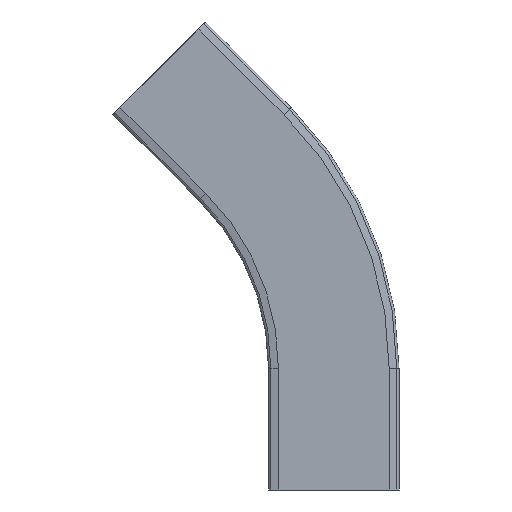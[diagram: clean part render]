
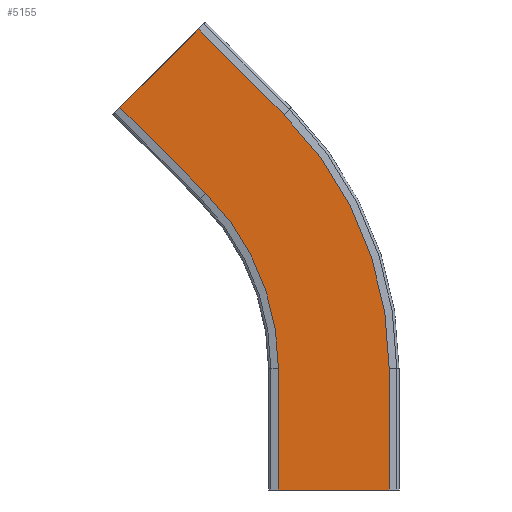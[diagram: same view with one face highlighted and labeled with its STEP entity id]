
A CAD part, front view. The second image highlights one B-rep face of the part: STEP entity #5155.
In plain terms, the highlighted planar face has unit normal (0, -1, 0).
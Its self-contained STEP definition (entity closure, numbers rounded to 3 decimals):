
#4745=CARTESIAN_POINT('',(36.5,-11.,0.0));
#4746=VERTEX_POINT('',#4745);
#4753=CARTESIAN_POINT('',(-36.5,-11.,0.0));
#4754=VERTEX_POINT('',#4753);
#4755=CARTESIAN_POINT('',(-36.5,-11.,0.0));
#4756=DIRECTION('',(1.0,0.0,0.0));
#4757=VECTOR('',#4756,73.);
#4758=LINE('',#4755,#4757);
#4759=EDGE_CURVE('',#4754,#4746,#4758,.T.);
#4785=CARTESIAN_POINT('',(-36.5,-11.,80.0));
#4786=VERTEX_POINT('',#4785);
#4800=CARTESIAN_POINT('',(-36.5,-11.,0.0));
#4801=DIRECTION('',(0.0,0.0,1.0));
#4802=VECTOR('',#4801,80.0);
#4803=LINE('',#4800,#4802);
#4804=EDGE_CURVE('',#4754,#4786,#4803,.T.);
#4814=CARTESIAN_POINT('',(36.5,-11.,80.0));
#4815=VERTEX_POINT('',#4814);
#4824=CARTESIAN_POINT('',(36.5,-11.,0.0));
#4825=DIRECTION('',(0.0,0.0,1.0));
#4826=VECTOR('',#4825,80.0);
#4827=LINE('',#4824,#4826);
#4828=EDGE_CURVE('',#4746,#4815,#4827,.T.);
#4941=CARTESIAN_POINT('',(-32.769,-11.,247.231));
#4942=VERTEX_POINT('',#4941);
#4949=CARTESIAN_POINT('',(-200.0,-11.,80.0));
#4950=DIRECTION('',(0.0,-1.0,0.0));
#4951=DIRECTION('',(1.0,0.0,0.0));
#4952=AXIS2_PLACEMENT_3D('',#4949,#4950,#4951);
#4953=CIRCLE('',#4952,236.5);
#4954=EDGE_CURVE('',#4815,#4942,#4953,.T.);
#5008=CARTESIAN_POINT('',(-84.388,-11.,195.612));
#5009=VERTEX_POINT('',#5008);
#5024=CARTESIAN_POINT('',(-200.0,-11.,80.0));
#5025=DIRECTION('',(0.0,-1.0,0.0));
#5026=DIRECTION('',(1.0,0.0,0.0));
#5027=AXIS2_PLACEMENT_3D('',#5024,#5025,#5026);
#5028=CIRCLE('',#5027,163.5);
#5029=EDGE_CURVE('',#4786,#5009,#5028,.T.);
#5039=CARTESIAN_POINT('',(-89.338,-11.,303.799));
#5040=VERTEX_POINT('',#5039);
#5047=CARTESIAN_POINT('',(-32.769,-11.,247.231));
#5048=DIRECTION('',(-0.707,0.,0.707));
#5049=VECTOR('',#5048,80.);
#5050=LINE('',#5047,#5049);
#5051=EDGE_CURVE('',#4942,#5040,#5050,.T.);
#5116=CARTESIAN_POINT('',(-140.957,-11.,252.181));
#5117=VERTEX_POINT('',#5116);
#5126=CARTESIAN_POINT('',(-84.388,-11.,195.612));
#5127=DIRECTION('',(-0.707,0.,0.707));
#5128=VECTOR('',#5127,80.);
#5129=LINE('',#5126,#5128);
#5130=EDGE_CURVE('',#5009,#5117,#5129,.T.);
#5135=CARTESIAN_POINT('',(134.871,-11.,79.59));
#5136=DIRECTION('',(0.0,-1.0,0.0));
#5137=DIRECTION('',(0.707,0.0,-0.707));
#5138=AXIS2_PLACEMENT_3D('',#5135,#5136,#5137);
#5139=PLANE('',#5138);
#5140=CARTESIAN_POINT('',(-89.338,-11.,303.799));
#5141=DIRECTION('',(-0.707,0.,-0.707));
#5142=VECTOR('',#5141,73.);
#5143=LINE('',#5140,#5142);
#5144=EDGE_CURVE('',#5040,#5117,#5143,.T.);
#5145=ORIENTED_EDGE('',*,*,#5144,.T.);
#5146=ORIENTED_EDGE('',*,*,#5130,.F.);
#5147=ORIENTED_EDGE('',*,*,#5029,.F.);
#5148=ORIENTED_EDGE('',*,*,#4804,.F.);
#5149=ORIENTED_EDGE('',*,*,#4759,.T.);
#5150=ORIENTED_EDGE('',*,*,#4828,.T.);
#5151=ORIENTED_EDGE('',*,*,#4954,.T.);
#5152=ORIENTED_EDGE('',*,*,#5051,.T.);
#5153=EDGE_LOOP('',(#5145,#5146,#5147,#5148,#5149,#5150,#5151,#5152));
#5154=FACE_OUTER_BOUND('',#5153,.T.);
#5155=ADVANCED_FACE('',(#5154),#5139,.T.);
